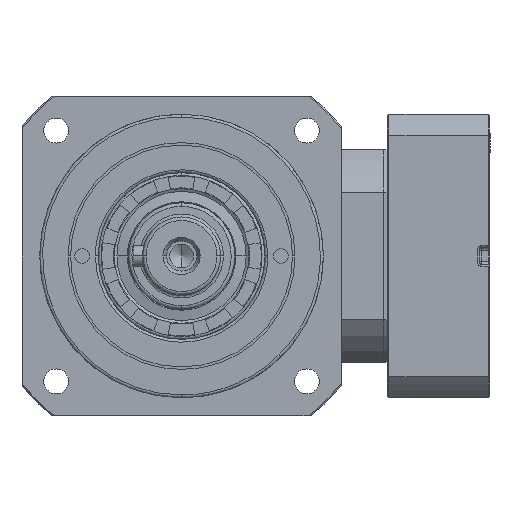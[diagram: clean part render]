
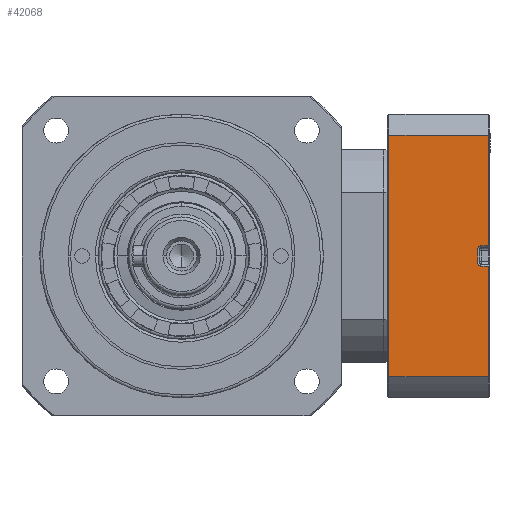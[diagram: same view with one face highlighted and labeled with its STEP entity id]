
A CAD part, left-side view. The second image highlights one B-rep face of the part: STEP entity #42068.
In plain terms, the highlighted planar face has unit normal (-1, 0, 0) as drawn and (0, 1, 0) by its records, which use the part's own axes.
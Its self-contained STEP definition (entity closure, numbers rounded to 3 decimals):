
#759 = CARTESIAN_POINT ( 'NONE',  ( 34., 40., 2.966 ) ) ;
#1702 = LINE ( 'NONE', #51132, #14367 ) ;
#2878 = CARTESIAN_POINT ( 'NONE',  ( 31.93, 40., -2.822 ) ) ;
#4412 = CARTESIAN_POINT ( 'NONE',  ( 31., 40., -1.824 ) ) ;
#6191 = CARTESIAN_POINT ( 'NONE',  ( 31.93, 40., -2.822 ) ) ;
#6368 = CARTESIAN_POINT ( 'NONE',  ( 34., 40., -34.004 ) ) ;
#6903 = EDGE_CURVE ( 'NONE', #45443, #54340, #9768, .T. ) ;
#7692 = DIRECTION ( 'NONE',  ( 0.998, 0., -0.07 ) ) ;
#9768 = CIRCLE ( 'NONE', #39799, 1. ) ;
#10064 = FACE_OUTER_BOUND ( 'NONE', #44327, .T. ) ;
#10740 = DIRECTION ( 'NONE',  ( 0., 0., 1. ) ) ;
#12495 = ORIENTED_EDGE ( 'NONE', *, *, #60008, .T. ) ;
#12708 = LINE ( 'NONE', #58702, #25234 ) ;
#12834 = ORIENTED_EDGE ( 'NONE', *, *, #55048, .T. ) ;
#12960 = VECTOR ( 'NONE', #38482, 1000. ) ;
#13639 = DIRECTION ( 'NONE',  ( 0., -1., 0. ) ) ;
#13798 = ORIENTED_EDGE ( 'NONE', *, *, #6903, .T. ) ;
#14096 = AXIS2_PLACEMENT_3D ( 'NONE', #42045, #13639, #46803 ) ;
#14367 = VECTOR ( 'NONE', #17937, 1000. ) ;
#14563 = VERTEX_POINT ( 'NONE', #35827 ) ;
#15102 = DIRECTION ( 'NONE',  ( -0.998, 0., -0.07 ) ) ;
#15571 = CARTESIAN_POINT ( 'NONE',  ( 31., 40., 1.824 ) ) ;
#15836 = DIRECTION ( 'NONE',  ( 0., 0., 1. ) ) ;
#15892 = DIRECTION ( 'NONE',  ( 0., -1., 0. ) ) ;
#15912 = CARTESIAN_POINT ( 'NONE',  ( 32., 40., 1.824 ) ) ;
#17596 = PLANE ( 'NONE',  #39062 ) ;
#17811 = CARTESIAN_POINT ( 'NONE',  ( -41.5, 40., 40. ) ) ;
#17937 = DIRECTION ( 'NONE',  ( 0., 0., -1. ) ) ;
#19171 = ORIENTED_EDGE ( 'NONE', *, *, #60449, .F. ) ;
#20004 = CARTESIAN_POINT ( 'NONE',  ( 6., 40., 0. ) ) ;
#21157 = VECTOR ( 'NONE', #7692, 1000. ) ;
#21410 = LINE ( 'NONE', #49404, #45263 ) ;
#22501 = DIRECTION ( 'NONE',  ( 0., 0., 1. ) ) ;
#22685 = ORIENTED_EDGE ( 'NONE', *, *, #44027, .T. ) ;
#22753 = CARTESIAN_POINT ( 'NONE',  ( 31.93, 40., 2.822 ) ) ;
#25234 = VECTOR ( 'NONE', #25497, 1000. ) ;
#25497 = DIRECTION ( 'NONE',  ( 1., 0., 0. ) ) ;
#26492 = VERTEX_POINT ( 'NONE', #38694 ) ;
#27499 = ORIENTED_EDGE ( 'NONE', *, *, #47315, .T. ) ;
#28064 = VECTOR ( 'NONE', #38479, 1000. ) ;
#28311 = VECTOR ( 'NONE', #15102, 1000. ) ;
#28963 = VERTEX_POINT ( 'NONE', #41522 ) ;
#30676 = VERTEX_POINT ( 'NONE', #6191 ) ;
#32085 = CIRCLE ( 'NONE', #14096, 1. ) ;
#33727 = CARTESIAN_POINT ( 'NONE',  ( 34., 40., 40. ) ) ;
#33728 = CARTESIAN_POINT ( 'NONE',  ( 31., 40., 40. ) ) ;
#35827 = CARTESIAN_POINT ( 'NONE',  ( 34., 40., 34.004 ) ) ;
#37652 = VERTEX_POINT ( 'NONE', #6368 ) ;
#38084 = VERTEX_POINT ( 'NONE', #52363 ) ;
#38479 = DIRECTION ( 'NONE',  ( 0., 0., -1. ) ) ;
#38482 = DIRECTION ( 'NONE',  ( 0., 0., -1. ) ) ;
#38694 = CARTESIAN_POINT ( 'NONE',  ( 34., 40., -2.966 ) ) ;
#39062 = AXIS2_PLACEMENT_3D ( 'NONE', #17811, #50999, #22501 ) ;
#39738 = CARTESIAN_POINT ( 'NONE',  ( 34., 40., 2.966 ) ) ;
#39799 = AXIS2_PLACEMENT_3D ( 'NONE', #15912, #15892, #15836 ) ;
#41522 = CARTESIAN_POINT ( 'NONE',  ( 6., 40., -34.004 ) ) ;
#41942 = VECTOR ( 'NONE', #10740, 1000. ) ;
#42045 = CARTESIAN_POINT ( 'NONE',  ( 32., 40., -1.824 ) ) ;
#42068 = ADVANCED_FACE ( 'NONE', ( #10064 ), #17596, .T. ) ;
#42240 = ORIENTED_EDGE ( 'NONE', *, *, #46285, .T. ) ;
#42253 = LINE ( 'NONE', #33727, #28064 ) ;
#42360 = EDGE_CURVE ( 'NONE', #28963, #38084, #54533, .T. ) ;
#42809 = EDGE_CURVE ( 'NONE', #26492, #37652, #1702, .T. ) ;
#44027 = EDGE_CURVE ( 'NONE', #38084, #14563, #21410, .T. ) ;
#44327 = EDGE_LOOP ( 'NONE', ( #12495, #13798, #49017, #12834, #27499, #49943, #19171, #52652, #22685, #42240 ) ) ;
#44606 = DIRECTION ( 'NONE',  ( 1., 0., 0. ) ) ;
#45263 = VECTOR ( 'NONE', #44606, 1000. ) ;
#45443 = VERTEX_POINT ( 'NONE', #22753 ) ;
#46285 = EDGE_CURVE ( 'NONE', #14563, #51443, #42253, .T. ) ;
#46803 = DIRECTION ( 'NONE',  ( 0., 0., 1. ) ) ;
#47315 = EDGE_CURVE ( 'NONE', #30676, #26492, #59058, .T. ) ;
#49017 = ORIENTED_EDGE ( 'NONE', *, *, #51346, .T. ) ;
#49404 = CARTESIAN_POINT ( 'NONE',  ( -41.5, 40., 34.004 ) ) ;
#49943 = ORIENTED_EDGE ( 'NONE', *, *, #42809, .T. ) ;
#50795 = LINE ( 'NONE', #33728, #12960 ) ;
#50999 = DIRECTION ( 'NONE',  ( 0., 1., 0. ) ) ;
#51132 = CARTESIAN_POINT ( 'NONE',  ( 34., 40., 40. ) ) ;
#51346 = EDGE_CURVE ( 'NONE', #54340, #53794, #50795, .T. ) ;
#51443 = VERTEX_POINT ( 'NONE', #39738 ) ;
#52363 = CARTESIAN_POINT ( 'NONE',  ( 6., 40., 34.004 ) ) ;
#52652 = ORIENTED_EDGE ( 'NONE', *, *, #42360, .T. ) ;
#53622 = LINE ( 'NONE', #759, #28311 ) ;
#53794 = VERTEX_POINT ( 'NONE', #4412 ) ;
#54340 = VERTEX_POINT ( 'NONE', #15571 ) ;
#54533 = LINE ( 'NONE', #20004, #41942 ) ;
#55048 = EDGE_CURVE ( 'NONE', #53794, #30676, #32085, .T. ) ;
#58702 = CARTESIAN_POINT ( 'NONE',  ( 0., 40., -34.004 ) ) ;
#59058 = LINE ( 'NONE', #2878, #21157 ) ;
#60008 = EDGE_CURVE ( 'NONE', #51443, #45443, #53622, .T. ) ;
#60449 = EDGE_CURVE ( 'NONE', #28963, #37652, #12708, .T. ) ;
